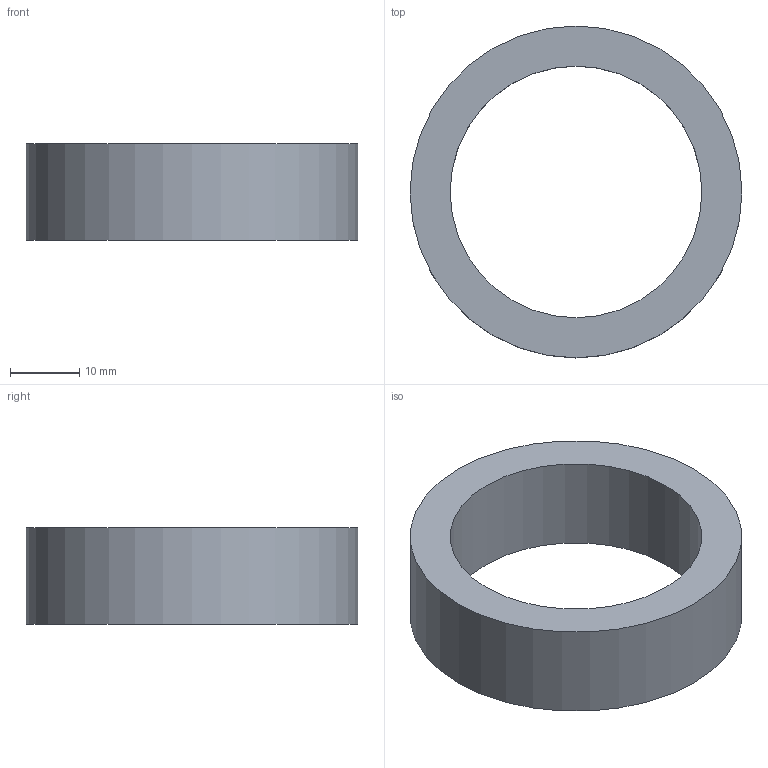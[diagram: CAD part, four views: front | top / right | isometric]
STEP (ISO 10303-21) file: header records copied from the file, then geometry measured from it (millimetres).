
FILE_DESCRIPTION(('Open CASCADE Model'),'2;1');
FILE_NAME('Open CASCADE Shape Model','2026-10-04T02:31:45',('Author'),( 'Open CASCADE'),'Open CASCADE STEP processor 8.0','Open CASCADE 8.0' ,'Unknown');
FILE_SCHEMA(('AUTOMOTIVE_DESIGN { 1 0 10303 214 1 1 1 1 }'));
Length unit declared in the file: millimetre
Products named in the file (1): Open CASCADE STEP translator 8.0 384
Bounding box: 48 x 48 x 14 mm (x, y, z)
Volume: 10765.1 mm3; surface area: 5250 mm2
Topology: 1 solids, 1 shells, 4 faces, 6 edges, 4 vertices
Faces by surface type: cylinder 2, plane 2
Full cylindrical faces by diameter (mm): 36.4 x1, 48 x1
Entity records: 186 total; most frequent: DIRECTION 32, CARTESIAN_POINT 27, ORIENTED_EDGE 12, PCURVE 12, DEFINITIONAL_REPRESENTATION 12, LINE 10, VECTOR 10, AXIS2_PLACEMENT_3D 9
